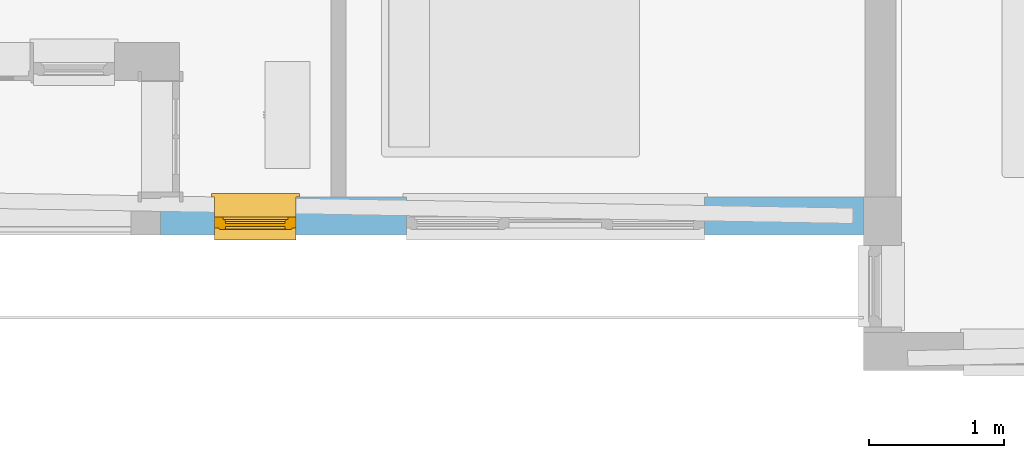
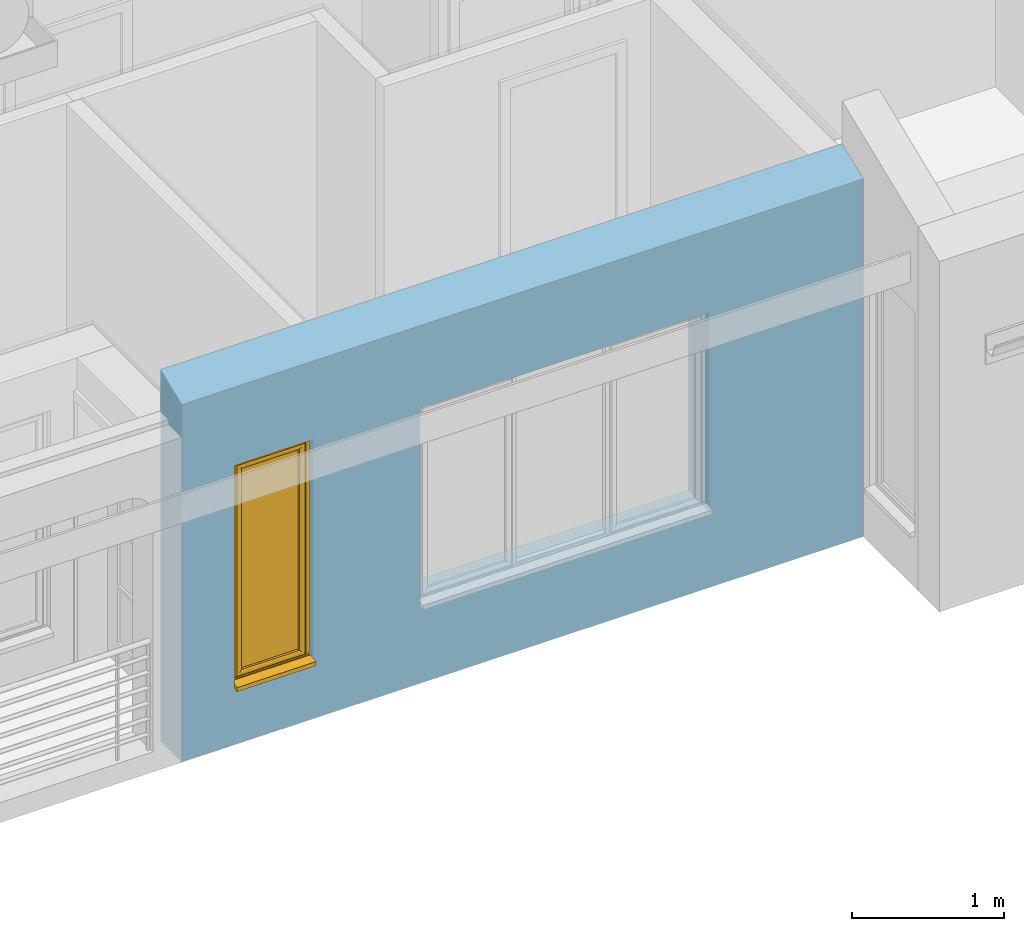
# One storey, part 9 of 41: 1 window, 2 openings, plus 1 element that does not belong to this part.
"""IFC2X3 building model written with IfcOpenShell, lengths in millimetres."""

from ifc_helpers import new_model, entity, si_unit, converted_unit, derived_unit, direction, frame, frame_2d, origin, place, context, subcontext, project, spatial, polyline, rectangle, extrude, clip, bounded_halfspace, faceted_brep, source, transform, mapped, material, material_list, layer, layer_set, layer_usage, type_object, type_shapes, element, fill, save


model = new_model("IFC2X3")

# Units and contexts
model_context = context("Model", 3, precision=0.01, world=origin(), true_north=direction((6.12303176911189e-17, 1.0)))
body_context = subcontext(model_context, "Body", "Model", "MODEL_VIEW")
ifc_project = project(units=[si_unit("LENGTHUNIT", "METRE", prefix="MILLI"), si_unit("AREAUNIT", "SQUARE_METRE"), si_unit("VOLUMEUNIT", "CUBIC_METRE"), converted_unit("PLANEANGLEUNIT", "DEGREE", entity("IfcRatioMeasure", 0.0174532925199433), si_unit("PLANEANGLEUNIT", "RADIAN"), dimensions=[0, 0, 0, 0, 0, 0, 0]), si_unit("MASSUNIT", "GRAM", prefix="KILO"), derived_unit("MASSDENSITYUNIT", [(si_unit("MASSUNIT", "GRAM", prefix="KILO"), 1), (si_unit("LENGTHUNIT", "METRE"), -3)]), si_unit("TIMEUNIT", "SECOND"), si_unit("FREQUENCYUNIT", "HERTZ"), si_unit("THERMODYNAMICTEMPERATUREUNIT", "DEGREE_CELSIUS"), derived_unit("THERMALTRANSMITTANCEUNIT", [(si_unit("MASSUNIT", "GRAM", prefix="KILO"), 1), (si_unit("THERMODYNAMICTEMPERATUREUNIT", "KELVIN"), -1), (si_unit("TIMEUNIT", "SECOND"), -3)]), derived_unit("VOLUMETRICFLOWRATEUNIT", [(si_unit("LENGTHUNIT", "METRE"), 3), (si_unit("TIMEUNIT", "SECOND"), -1)]), si_unit("ELECTRICCURRENTUNIT", "AMPERE"), si_unit("ELECTRICVOLTAGEUNIT", "VOLT"), si_unit("POWERUNIT", "WATT"), si_unit("FORCEUNIT", "NEWTON", prefix="KILO"), si_unit("ILLUMINANCEUNIT", "LUX"), si_unit("LUMINOUSFLUXUNIT", "LUMEN"), si_unit("LUMINOUSINTENSITYUNIT", "CANDELA"), derived_unit("USERDEFINED", [(si_unit("MASSUNIT", "GRAM", prefix="KILO"), -1), (si_unit("LENGTHUNIT", "METRE"), -2), (si_unit("TIMEUNIT", "SECOND"), 3), (si_unit("LUMINOUSFLUXUNIT", "LUMEN"), 1)]), derived_unit("LINEARVELOCITYUNIT", [(si_unit("LENGTHUNIT", "METRE"), 1), (si_unit("TIMEUNIT", "SECOND"), -1)]), si_unit("PRESSUREUNIT", "PASCAL"), derived_unit("USERDEFINED", [(si_unit("LENGTHUNIT", "METRE"), -2), (si_unit("MASSUNIT", "GRAM", prefix="KILO"), 1), (si_unit("TIMEUNIT", "SECOND"), -2)])], contexts=[model_context])

# Site, building, storey
site_placement = place(None, origin())
site = spatial("IfcSite", under=ifc_project, at=site_placement, Name="Surface", CompositionType="ELEMENT")
building_placement = place(site_placement, origin())
building = spatial("IfcBuilding", under=site, at=building_placement, CompositionType="ELEMENT")
storey_placement = place(building_placement, frame((0.0, 0.0, 300.0)))
storey = spatial("IfcBuildingStorey", under=building, at=storey_placement, Name="F.F.L", CompositionType="ELEMENT", Elevation=300.0)

# Wall, openings, window
ifc_material_1 = material(Name="Brickwork - Facebrick (Plettenberg Autumn)")
ifc_layer_1 = layer(ifc_material_1, 110.0)
ifc_material_2 = material(Name="Air Infiltration Barrier")
ifc_layer_2 = layer(ifc_material_2, 50.0)
ifc_material_3 = material(Name="Brickwork - 110mm (Stock)")
ifc_layer_3 = layer(ifc_material_3, 110.0)
ifc_material_4 = material(Name="Plaster")
ifc_layer_4 = layer(ifc_material_4, 10.0)
ifc_layer_set = layer_set([ifc_layer_1, ifc_layer_2, ifc_layer_3, ifc_layer_4], Name="Basic Wall:BrickWall - 270mm (Ext.F&Int.S)")
ifc_layer_usage = layer_usage(ifc_layer_set, "AXIS2", "POSITIVE", -140.0)
wall_type = type_object("IfcWallType", Name="Basic Wall:BrickWall - 270mm (Ext.F&Int.S)", PredefinedType="STANDARD", material=ifc_layer_set)
wall_placement = place(storey_placement, frame((-5376.8751700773, 3720.8400891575, -150.0)))
wall = element("IfcWallStandardCase", 1, at=wall_placement, inside=storey, type_object=wall_type, material=ifc_layer_usage, Name="Basic Wall:BrickWall - 270mm (Ext.F&Int.S)", ObjectType="Basic Wall:BrickWall - 270mm (Ext.F&Int.S)", context=body_context, shape_type="Clipping", body=[
    clip(extrude(rectangle(XDim=5190.0, YDim=280.0, at=frame_2d((2735.0, 3.97903932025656e-13), x_axis=(-1.0, 0.0))), origin(), (0.0, 0.0, 1.0), 2993.00402225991), bounded_halfspace(frame((140.0, -140.0, 2879.87667902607), z_axis=(0.0, -0.374606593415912, 0.927183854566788), x_axis=(1.0, 0.0, 0.0)), False, frame((140.0, -140.0, 2879.87667902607)), polyline([(0.0, 0.0), (5190.0, 0.0), (5190.0, 280.0), (0.0, 280.0), (0.0, 0.0)]))),
])
opening_1_placement = place(wall_placement, frame((4155.0, 140.0, 615.0)))
element("IfcOpeningElement", 2, at=opening_1_placement, cuts=wall, Name="Tpl All Bars1:Tpl All Bars 5:1", ObjectType="Opening", context=body_context, shape_type="SweptSolid", body=[
    extrude(rectangle(XDim=1600.0, YDim=2200.0, at=frame_2d((800.0, 1100.0), x_axis=(-1.0, 0.0))), frame((0.0, 0.0, 0.0), z_axis=(0.0, -1.0, 0.0), x_axis=(0.0, 0.0, 1.0)), (0.0, 0.0, 1.0), 280.0),
])
opening_2_placement = place(wall_placement, frame((1140.0, 140.0, 450.0)))
opening_2 = element("IfcOpeningElement", 3, at=opening_2_placement, cuts=wall, Name="Sgl All Bars:M_Casement 2x3:1", ObjectType="Opening", context=body_context, shape_type="SweptSolid", body=[
    extrude(rectangle(XDim=1800.0, YDim=600.0, at=frame_2d((900.0, 300.0), x_axis=(-1.0, 0.0))), frame((0.0, 0.0, 0.0), z_axis=(0.0, -1.0, 0.0), x_axis=(0.0, 0.0, 1.0)), (0.0, 0.0, 1.0), 280.0),
])
ifc_material_5 = material(Name="Meranti - Varnish Mat")
ifc_material_6 = material(Name="Glass")
ifc_material_list_1 = material_list([ifc_material_5, ifc_material_6])
ifc_material_list_2 = material_list([ifc_material_5, ifc_material_6])
window_style = type_object("IfcWindowStyle", Name="M_Casement 2x3", ConstructionType="NOTDEFINED", OperationType="SINGLE_PANEL", ParameterTakesPrecedence=False, Sizeable=False, material=ifc_material_list_2)
shared_shape = source(origin(), body_context, "Body", "Brep", [
    faceted_brep([(-25.0, -25.0, 0.0), (-25.0, 0.0, 0.0), (0.0, 0.0, 0.0), (0.0, 147.0, 0.0), (600.0, 147.0, 0.0), (600.0, 0.0, 0.0), (625.0, 0.0, 0.0), (625.0, -25.0, 0.0), (-25.0, -25.0, 25.0), (625.0, -25.0, 25.0), (625.0, 0.0, 25.0), (600.0, 0.0, 25.0), (600.0, 147.0, 25.0), (0.0, 147.0, 25.0), (0.0, 0.0, 25.0), (-25.0, 0.0, 25.0)], [[[0, 1, 2, 3, 4, 5, 6, 7]], [[8, 9, 10, 11, 12, 13, 14, 15]], [[1, 0, 8, 15]], [[2, 1, 15, 14]], [[3, 2, 14, 13]], [[4, 3, 13, 12]], [[5, 4, 12, 11]], [[6, 5, 11, 10]], [[7, 6, 10, 9]], [[0, 7, 9, 8]]]),
    faceted_brep([(0.0, 147.0, 0.0), (600.0, 147.0, 0.0), (600.0, 147.0, 1800.0), (0.0, 147.0, 1800.0), (60.0, 147.0, 1740.0), (540.0, 147.0, 1740.0), (540.0, 147.0, 75.0), (60.0, 147.0, 75.0), (0.0, 230.0, 1800.0), (0.0, 230.0, 51.0), (0.0, 245.0, 49.6876700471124), (0.0, 245.0, 44.7449676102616), (0.0, 317.50000000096, 33.808884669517), (0.0, 317.500000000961, 0.0), (600.0, 230.0, 1800.0), (600.0, 230.0, 51.0), (40.0, 230.0, 1760.0), (40.0, 230.0, 63.0), (560.0, 230.0, 63.0), (560.0, 230.0, 1760.0), (40.0, 165.0, 1760.0), (40.0, 165.0, 63.0), (60.0, 165.0, 1740.0), (60.0, 165.0, 75.0), (540.0, 165.0, 75.0), (540.0, 165.0, 1740.0), (560.0, 165.0, 1760.0), (560.0, 165.0, 63.0), (600.0, 317.50000000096, 0.0), (600.0, 317.50000000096, 33.808884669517), (600.0, 245.0, 44.7449676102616), (600.0, 245.0, 49.6876700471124)], [[[0, 1, 2, 3], [4, 5, 6, 7]], [[0, 3, 8, 9, 10, 11, 12, 13]], [[9, 8, 14, 15], [16, 17, 18, 19]], [[17, 16, 20, 21]], [[22, 23, 24, 25], [20, 26, 27, 21]], [[22, 4, 7, 23]], [[3, 2, 14, 8]], [[16, 19, 26, 20]], [[5, 4, 22, 25]], [[15, 14, 2, 1, 28, 29, 30, 31]], [[19, 18, 27, 26]], [[5, 25, 24, 6]], [[28, 1, 0, 13]], [[29, 28, 13, 12]], [[30, 29, 12, 11]], [[31, 30, 11, 10]], [[15, 31, 10, 9]], [[21, 27, 18, 17]], [[7, 6, 24, 23]]], outer=[[True, False], [True], [True, False], [True], [False, True], [True], [True], [True], [True], [True], [True], [True], [True], [True], [True], [True], [True], [True], [True]]),
    faceted_brep([(530.0, 194.0, 93.0), (530.0, 194.0, 1730.0), (70.0, 194.0, 1730.0), (70.0, 194.0, 93.0), (530.0, 218.0, 93.0), (70.0, 218.0, 93.0), (70.0, 218.0, 1730.0), (530.0, 218.0, 1730.0)], [[[0, 1, 2, 3]], [[4, 5, 6, 7]], [[1, 0, 4, 7]], [[2, 1, 7, 6]], [[3, 2, 6, 5]], [[0, 3, 5, 4]]]),
    faceted_brep([(30.0, 230.0, 1770.0), (30.0, 235.773502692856, 1770.0), (30.0, 235.773502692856, 53.0), (30.0, 230.0, 53.0), (40.0, 165.0, 1760.0), (40.0, 230.0, 1760.0), (40.0, 230.0, 63.0), (40.0, 165.0, 63.0), (80.0, 179.492899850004, 1720.0), (69.8519622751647, 165.0, 1730.14803772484), (69.8519622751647, 165.0, 92.8519622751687), (80.0, 179.492899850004, 103.0), (80.0, 194.0, 1720.0), (80.0, 194.0, 103.0), (70.0, 218.0, 1730.0), (70.0, 194.0, 1730.0), (70.0, 194.0, 93.0), (70.0, 218.0, 93.0), (80.0, 235.773502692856, 1720.0), (80.0, 218.0, 1720.0), (80.0, 218.0, 103.0), (80.0, 235.773502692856, 103.0), (62.5542451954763, 241.547005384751, 1737.44575480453), (62.5542451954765, 241.547005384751, 85.5542451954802), (40.7846096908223, 241.547005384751, 1759.21539030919), (40.7846096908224, 241.547005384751, 63.784609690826), (570.0, 235.773502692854, 53.0), (570.0, 230.0, 53.0), (560.0, 230.0, 63.0), (560.0, 165.0, 63.0), (530.148037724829, 165.0, 92.8519622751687), (520.0, 179.492899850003, 103.0), (520.0, 194.0, 103.0), (530.0, 194.0, 93.0), (530.0, 218.0, 93.0), (520.0, 218.0, 103.0), (520.0, 235.773502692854, 103.0), (537.445754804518, 241.547005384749, 85.5542451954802), (559.215390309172, 241.547005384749, 63.784609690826), (570.0, 235.773502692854, 1770.0), (570.0, 230.0, 1770.0), (560.0, 230.0, 1760.0), (560.0, 165.0, 1760.0), (530.148037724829, 165.0, 1730.14803772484), (520.0, 179.492899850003, 1720.0), (520.0, 194.0, 1720.0), (530.0, 194.0, 1730.0), (530.0, 218.0, 1730.0), (520.0, 218.0, 1720.0), (520.0, 235.773502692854, 1720.0), (537.445754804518, 241.547005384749, 1737.44575480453), (559.215390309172, 241.547005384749, 1759.21539030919)], [[[0, 1, 2, 3]], [[4, 5, 6, 7]], [[8, 9, 10, 11]], [[12, 8, 11, 13]], [[14, 15, 16, 17]], [[18, 19, 20, 21]], [[22, 18, 21, 23]], [[1, 24, 25, 2]], [[3, 2, 26, 27]], [[7, 6, 28, 29]], [[11, 10, 30, 31]], [[13, 11, 31, 32]], [[17, 16, 33, 34]], [[21, 20, 35, 36]], [[23, 21, 36, 37]], [[2, 25, 38, 26]], [[27, 26, 39, 40]], [[29, 28, 41, 42]], [[31, 30, 43, 44]], [[32, 31, 44, 45]], [[34, 33, 46, 47]], [[36, 35, 48, 49]], [[37, 36, 49, 50]], [[26, 38, 51, 39]], [[40, 39, 1, 0]], [[3, 27, 40, 0], [5, 41, 28, 6]], [[42, 41, 5, 4]], [[7, 29, 42, 4], [9, 43, 30, 10]], [[44, 43, 9, 8]], [[45, 44, 8, 12]], [[13, 32, 45, 12], [15, 46, 33, 16]], [[47, 46, 15, 14]], [[17, 34, 47, 14], [19, 48, 35, 20]], [[49, 48, 19, 18]], [[50, 49, 18, 22]], [[23, 37, 50, 22], [24, 51, 38, 25]], [[39, 51, 24, 1]]], outer=[[True], [True], [True], [True], [True], [True], [True], [True], [True], [True], [True], [True], [True], [True], [True], [True], [True], [True], [True], [True], [True], [True], [True], [True], [True], [True, False], [True], [True, False], [True], [True], [False, True], [True], [True, False], [True], [True], [False, True], [True]]),
    faceted_brep([(310.0, 210.0, 1184.33333333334), (310.0, 210.0, 638.666666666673), (530.148037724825, 210.0, 638.666666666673), (530.148037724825, 210.0, 618.666666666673), (310.0, 210.0, 618.666666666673), (310.0, 210.0, 93.0), (290.0, 210.0, 93.0), (290.0, 210.0, 618.666666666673), (69.8519622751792, 210.0, 618.666666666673), (69.8519622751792, 210.0, 638.666666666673), (290.0, 210.0, 638.666666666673), (290.0, 210.0, 1184.33333333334), (69.8519622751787, 210.0, 1184.33333333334), (69.8519622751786, 210.0, 1204.33333333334), (290.0, 210.0, 1204.33333333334), (290.0, 210.0, 1730.0), (310.0, 210.0, 1730.0), (310.0, 210.0, 1204.33333333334), (530.148037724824, 210.0, 1204.33333333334), (530.148037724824, 210.0, 1184.33333333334), (310.0, 202.0, 1184.33333333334), (530.148037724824, 202.0, 1184.33333333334), (530.148037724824, 202.0, 1204.33333333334), (310.0, 202.0, 1204.33333333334), (310.0, 202.0, 1730.0), (290.0, 202.0, 1730.0), (290.0, 202.0, 1204.33333333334), (69.8519622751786, 202.0, 1204.33333333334), (69.8519622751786, 202.0, 1184.33333333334), (290.0, 202.0, 1184.33333333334), (290.0, 202.0, 638.666666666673), (69.8519622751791, 202.0, 638.666666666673), (69.8519622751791, 202.0, 618.666666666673), (290.0, 202.0, 618.666666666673), (290.0, 202.0, 93.0), (310.0, 202.0, 93.0), (310.0, 202.0, 618.666666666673), (530.148037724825, 202.0, 618.666666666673), (530.148037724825, 202.0, 638.666666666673), (310.0, 202.0, 638.666666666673)], [[[0, 1, 2, 3, 4, 5, 6, 7, 8, 9, 10, 11, 12, 13, 14, 15, 16, 17, 18, 19]], [[20, 21, 22, 23, 24, 25, 26, 27, 28, 29, 30, 31, 32, 33, 34, 35, 36, 37, 38, 39]], [[1, 0, 20, 39]], [[2, 1, 39, 38]], [[3, 2, 38, 37]], [[4, 3, 37, 36]], [[5, 4, 36, 35]], [[6, 5, 35, 34]], [[7, 6, 34, 33]], [[8, 7, 33, 32]], [[9, 8, 32, 31]], [[10, 9, 31, 30]], [[11, 10, 30, 29]], [[12, 11, 29, 28]], [[13, 12, 28, 27]], [[14, 13, 27, 26]], [[15, 14, 26, 25]], [[16, 15, 25, 24]], [[17, 16, 24, 23]], [[18, 17, 23, 22]], [[19, 18, 22, 21]], [[0, 19, 21, 20]]]),
])
type_shapes(window_style, [shared_shape])
window_placement = place(opening_2_placement, frame((0.0, 0.0, 0.0), z_axis=(0.0, 0.0, 1.0), x_axis=(-1.0, 0.0, 0.0)))
window = element("IfcWindow", 4, at=window_placement, inside=storey, type_object=window_style, material=ifc_material_list_1, Name="Sgl All Bars:M_Casement 2x3", ObjectType="M_Casement 2x3", OverallHeight=1800.0, OverallWidth=600.0, context=body_context, shape_type="MappedRepresentation", body=[
    mapped(shared_shape, transform((0.0, 0.0, 0.0), scale=1.0)),
])
fill(opening_2, window)

save(model, "model.ifc")
